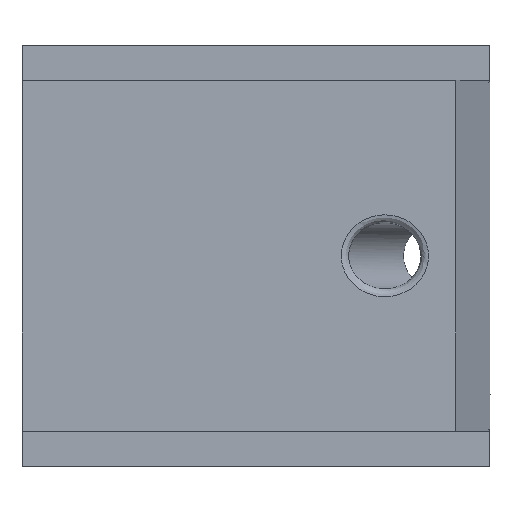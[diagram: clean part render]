
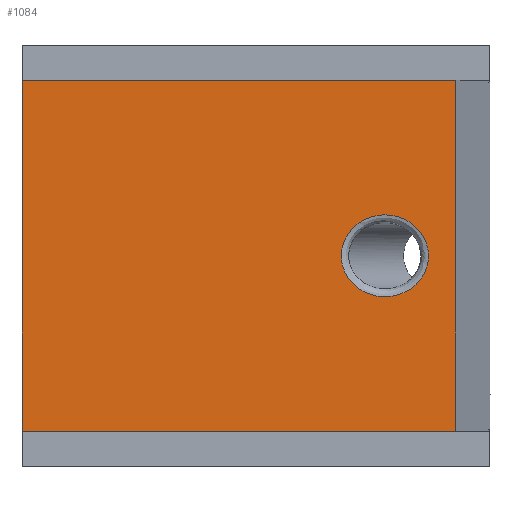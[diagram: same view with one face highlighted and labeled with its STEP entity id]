
A CAD part, top view. The second image highlights one B-rep face of the part: STEP entity #1084.
In plain terms, the highlighted planar face has unit normal (0, 0, 1).
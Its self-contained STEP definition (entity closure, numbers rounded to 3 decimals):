
#155 = LINE ( 'NONE', #963, #9964 ) ;
#928 = DIRECTION ( 'NONE',  ( 0., 0., -1. ) ) ;
#963 = CARTESIAN_POINT ( 'NONE',  ( 0., 22.5, 20. ) ) ;
#1084 = ADVANCED_FACE ( 'NONE', ( #3575, #6113 ), #6174, .F. ) ;
#1088 = LINE ( 'NONE', #6276, #10006 ) ;
#1461 = CARTESIAN_POINT ( 'NONE',  ( 40.937, 10.5, 20. ) ) ;
#1955 = CARTESIAN_POINT ( 'NONE',  ( 55.632, 22.5, 20. ) ) ;
#2085 = CARTESIAN_POINT ( 'NONE',  ( 0., 22.5, 20. ) ) ;
#2695 = CARTESIAN_POINT ( 'NONE',  ( 0., -22.5, 20. ) ) ;
#2822 = EDGE_CURVE ( 'NONE', #5952, #10260, #1088, .T. ) ;
#2962 = ORIENTED_EDGE ( 'NONE', *, *, #10116, .T. ) ;
#3044 = ORIENTED_EDGE ( 'NONE', *, *, #4969, .T. ) ;
#3109 = VERTEX_POINT ( 'NONE', #6980 ) ;
#3110 = CARTESIAN_POINT ( 'NONE',  ( 52.111, 0., 20. ) ) ;
#3372 = ORIENTED_EDGE ( 'NONE', *, *, #6518, .F. ) ;
#3472 = CARTESIAN_POINT ( 'NONE',  ( 40.937, 0., 20. ) ) ;
#3575 = FACE_BOUND ( 'NONE', #3980, .T. ) ;
#3980 = EDGE_LOOP ( 'NONE', ( #9093 ) ) ;
#4046 = DIRECTION ( 'NONE',  ( 1., 0., 0. ) ) ;
#4281 = CARTESIAN_POINT ( 'NONE',  ( 52.111, 10.5, 20. ) ) ;
#4284 = EDGE_LOOP ( 'NONE', ( #3044, #7460, #3372, #2962 ) ) ;
#4501 = CARTESIAN_POINT ( 'NONE',  ( 0., 22.5, 20. ) ) ;
#4543 =( BOUNDED_CURVE ( )  B_SPLINE_CURVE ( 3, ( #9581, #8607, #9527, #3472, #1461, #4281, #6816 ),
 .UNSPECIFIED., .T., .T. ) 
 B_SPLINE_CURVE_WITH_KNOTS ( ( 4, 3, 4 ),
 ( 0., 3.142, 6.283 ),
 .UNSPECIFIED. ) 
 CURVE ( )  GEOMETRIC_REPRESENTATION_ITEM ( )  RATIONAL_B_SPLINE_CURVE ( ( 1., 0.333, 0.333, 1., 0.333, 0.333, 1. ) ) 
 REPRESENTATION_ITEM ( '' )  );
#4807 = VERTEX_POINT ( 'NONE', #11366 ) ;
#4910 = LINE ( 'NONE', #2085, #5080 ) ;
#4969 = EDGE_CURVE ( 'NONE', #3109, #10260, #10577, .T. ) ;
#5080 = VECTOR ( 'NONE', #4046, 1000. ) ;
#5289 = DIRECTION ( 'NONE',  ( 0., -1., 0. ) ) ;
#5662 = EDGE_CURVE ( 'NONE', #6575, #6575, #4543, .T. ) ;
#5952 = VERTEX_POINT ( 'NONE', #1955 ) ;
#6077 = CARTESIAN_POINT ( 'NONE',  ( 55.632, -22.5, 20. ) ) ;
#6113 = FACE_OUTER_BOUND ( 'NONE', #4284, .T. ) ;
#6174 = PLANE ( 'NONE',  #9127 ) ;
#6234 = DIRECTION ( 'NONE',  ( -1., 0., 0. ) ) ;
#6276 = CARTESIAN_POINT ( 'NONE',  ( 55.632, 22.5, 20. ) ) ;
#6518 = EDGE_CURVE ( 'NONE', #4807, #5952, #4910, .T. ) ;
#6575 = VERTEX_POINT ( 'NONE', #3110 ) ;
#6816 = CARTESIAN_POINT ( 'NONE',  ( 52.111, 0., 20. ) ) ;
#6980 = CARTESIAN_POINT ( 'NONE',  ( 0., -22.5, 20. ) ) ;
#7363 = DIRECTION ( 'NONE',  ( 0., -1., 0. ) ) ;
#7460 = ORIENTED_EDGE ( 'NONE', *, *, #2822, .F. ) ;
#8607 = CARTESIAN_POINT ( 'NONE',  ( 52.111, -10.5, 20. ) ) ;
#9093 = ORIENTED_EDGE ( 'NONE', *, *, #5662, .T. ) ;
#9127 = AXIS2_PLACEMENT_3D ( 'NONE', #4501, #928, #6234 ) ;
#9527 = CARTESIAN_POINT ( 'NONE',  ( 40.937, -10.5, 20. ) ) ;
#9581 = CARTESIAN_POINT ( 'NONE',  ( 52.111, 0., 20. ) ) ;
#9858 = VECTOR ( 'NONE', #10308, 1000. ) ;
#9964 = VECTOR ( 'NONE', #5289, 1000. ) ;
#10006 = VECTOR ( 'NONE', #7363, 1000. ) ;
#10116 = EDGE_CURVE ( 'NONE', #4807, #3109, #155, .T. ) ;
#10260 = VERTEX_POINT ( 'NONE', #6077 ) ;
#10308 = DIRECTION ( 'NONE',  ( 1., 0., 0. ) ) ;
#10577 = LINE ( 'NONE', #2695, #9858 ) ;
#11366 = CARTESIAN_POINT ( 'NONE',  ( 0., 22.5, 20. ) ) ;
